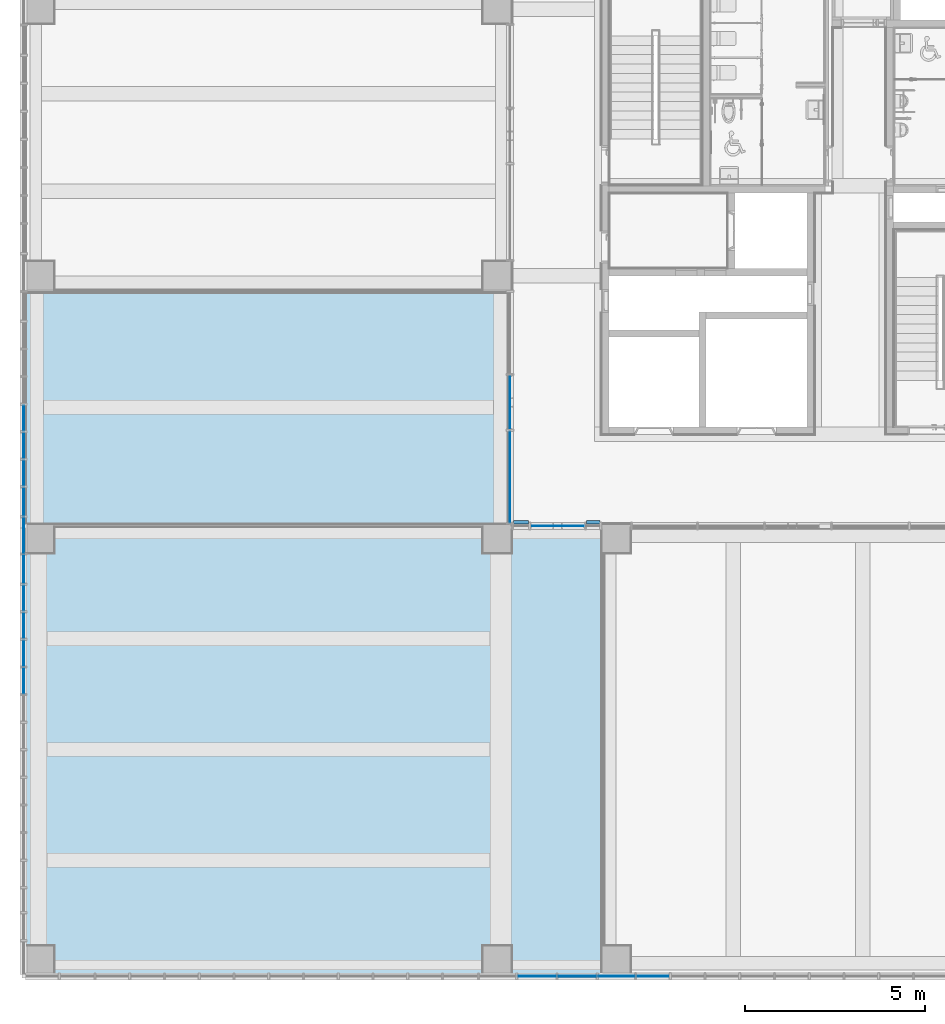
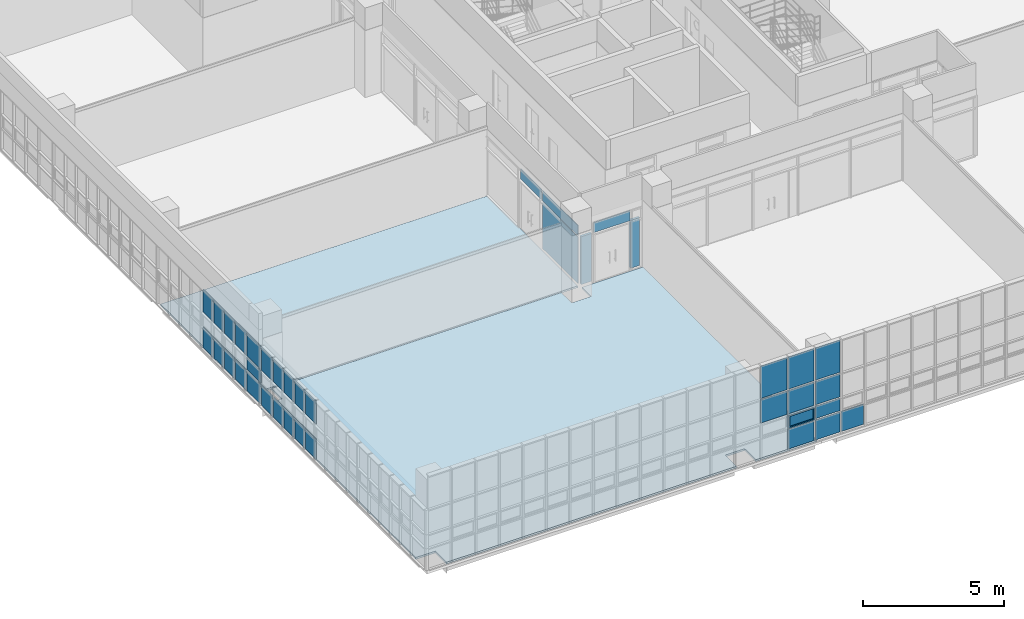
# One storey, part 30 of 76: 38 plates, 2 slabs, 4 elements without a shape of their own.
"""IFC2X3 building model written with IfcOpenShell, lengths in millimetres."""

from ifc_helpers import new_model, entity, si_unit, converted_unit, derived_unit, direction, frame, frame_2d, origin, origin_2d_with_axis, place, context, subcontext, project, spatial, polyline, rectangle, outline, extrude, source, transform, mapped, material, material_list, layer, layer_set, layer_usage, type_object, type_shapes, element, aggregate, save


model = new_model("IFC2X3")

# Units and contexts
model_context = context("Model", 3, precision=0.01, world=origin(), true_north=direction((6.123031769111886e-17, 1.0)))
body_context = subcontext(model_context, "Body", "Model", "MODEL_VIEW")
ifc_project = project(units=[si_unit("LENGTHUNIT", "METRE", prefix="MILLI"), si_unit("AREAUNIT", "SQUARE_METRE"), si_unit("VOLUMEUNIT", "CUBIC_METRE"), converted_unit("PLANEANGLEUNIT", "DEGREE", entity("IfcRatioMeasure", 0.017453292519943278), si_unit("PLANEANGLEUNIT", "RADIAN"), dimensions=[0, 0, 0, 0, 0, 0, 0]), si_unit("MASSUNIT", "GRAM", prefix="KILO"), derived_unit("MASSDENSITYUNIT", [(si_unit("MASSUNIT", "GRAM", prefix="KILO"), 1), (si_unit("LENGTHUNIT", "METRE"), -3)]), derived_unit("MOMENTOFINERTIAUNIT", [(si_unit("LENGTHUNIT", "METRE"), 4)]), si_unit("TIMEUNIT", "SECOND"), si_unit("FREQUENCYUNIT", "HERTZ"), si_unit("THERMODYNAMICTEMPERATUREUNIT", "DEGREE_CELSIUS"), derived_unit("THERMALTRANSMITTANCEUNIT", [(si_unit("MASSUNIT", "GRAM", prefix="KILO"), 1), (si_unit("THERMODYNAMICTEMPERATUREUNIT", "KELVIN"), -1), (si_unit("TIMEUNIT", "SECOND"), -3)]), derived_unit("VOLUMETRICFLOWRATEUNIT", [(si_unit("LENGTHUNIT", "METRE"), 3), (si_unit("TIMEUNIT", "SECOND"), -1)]), derived_unit("MASSFLOWRATEUNIT", [(si_unit("MASSUNIT", "GRAM", prefix="KILO"), 1), (si_unit("TIMEUNIT", "SECOND"), -1)]), derived_unit("ROTATIONALFREQUENCYUNIT", [(si_unit("TIMEUNIT", "SECOND"), -1)]), si_unit("ELECTRICCURRENTUNIT", "AMPERE"), si_unit("ELECTRICVOLTAGEUNIT", "VOLT"), si_unit("POWERUNIT", "WATT"), si_unit("FORCEUNIT", "NEWTON", prefix="KILO"), si_unit("ILLUMINANCEUNIT", "LUX"), si_unit("LUMINOUSFLUXUNIT", "LUMEN"), si_unit("LUMINOUSINTENSITYUNIT", "CANDELA"), derived_unit("USERDEFINED", [(si_unit("MASSUNIT", "GRAM", prefix="KILO"), -1), (si_unit("LENGTHUNIT", "METRE"), -2), (si_unit("TIMEUNIT", "SECOND"), 3), (si_unit("LUMINOUSFLUXUNIT", "LUMEN"), 1)]), derived_unit("SOUNDPOWERUNIT", [(si_unit("MASSUNIT", "GRAM", prefix="KILO"), 1), (si_unit("LENGTHUNIT", "METRE"), 2), (si_unit("TIMEUNIT", "SECOND"), -3)]), derived_unit("SOUNDPRESSUREUNIT", [(si_unit("MASSUNIT", "GRAM", prefix="KILO"), 1), (si_unit("LENGTHUNIT", "METRE"), -1), (si_unit("TIMEUNIT", "SECOND"), -2)]), derived_unit("LINEARVELOCITYUNIT", [(si_unit("LENGTHUNIT", "METRE"), 1), (si_unit("TIMEUNIT", "SECOND"), -1)]), si_unit("PRESSUREUNIT", "PASCAL"), derived_unit("USERDEFINED", [(si_unit("LENGTHUNIT", "METRE"), -2), (si_unit("MASSUNIT", "GRAM", prefix="KILO"), 1), (si_unit("TIMEUNIT", "SECOND"), -2)]), derived_unit("LINEARFORCEUNIT", [(si_unit("MASSUNIT", "GRAM", prefix="KILO"), 1), (si_unit("LENGTHUNIT", "METRE"), 1), (si_unit("TIMEUNIT", "SECOND"), -2), (si_unit("LENGTHUNIT", "METRE"), -1)]), derived_unit("PLANARFORCEUNIT", [(si_unit("MASSUNIT", "GRAM", prefix="KILO"), 1), (si_unit("LENGTHUNIT", "METRE"), 1), (si_unit("TIMEUNIT", "SECOND"), -2), (si_unit("LENGTHUNIT", "METRE"), -2)])], contexts=[model_context])

# Site, building, storey
site_placement = place(None, frame((-14167.972527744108, -657.2125860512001, 0.0)))
site = spatial("IfcSite", under=ifc_project, at=site_placement, Name="Default", CompositionType="ELEMENT")
building_placement = place(site_placement, origin())
building = spatial("IfcBuilding", under=site, at=building_placement, Name="Sample Building", CompositionType="ELEMENT")
storey_placement = place(building_placement, frame((0.0, 0.0, 9300.0)))
storey = spatial("IfcBuildingStorey", under=building, at=storey_placement, Name="지상 3층", CompositionType="ELEMENT", Elevation=9300.000000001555)

# Curtain wall, plate
curtain_wall_type = type_object("IfcCurtainWallType", Name="커튼월:CW112-스테인리스 스틸 커튼월", PredefinedType="NOTDEFINED")
curtain_wall_1_placement = place(storey_placement, frame((0.0, 0.0, -9300.0)))
curtain_wall_1 = element("IfcCurtainWall", 1, at=curtain_wall_1_placement, inside=storey, type_object=curtain_wall_type, Name="커튼월:CW112-스테인리스 스틸 커튼월", ObjectType="커튼월:CW112-스테인리스 스틸 커튼월")
ifc_material_1 = material(Name="KBIMS-로이유리(코팅)")
plate_type_1 = type_object("IfcPlateType", Name="CW300-THK24.Low-e coating glass:CW300-THK24.Low-e coating glass", PredefinedType="CURTAIN_PANEL", material=ifc_material_1)
shared_shape_1 = source(origin(), body_context, "Body", "SweptSolid", [
    extrude(rectangle(XDim=1500.0000000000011, YDim=24.000000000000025, at=origin_2d_with_axis()), frame((0.0, 0.0, 0.0), z_axis=(0.0, 0.0, 1.0), x_axis=(-1.0, 0.0, 0.0)), (0.0, 0.0, 1.0), 445.00000000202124),
])
type_shapes(plate_type_1, [shared_shape_1])
plate_1_placement = place(curtain_wall_1_placement, frame((27522.95510516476, 16442.17762439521, 11505.0), z_axis=(0.0, 0.0, 1.0), x_axis=(0.0, -1.0, 0.0)))
plate_1 = element("IfcPlate", 2, at=plate_1_placement, type_object=plate_type_1, material=ifc_material_1, Name="CW300-THK24.Low-e coating glass:CW300-THK24.Low-e coating glass", ObjectType="CW300-THK24.Low-e coating glass:CW300-THK24.Low-e coating glass", context=body_context, shape_type="MappedRepresentation", body=[
    mapped(shared_shape_1, transform((0.0, 0.0, 0.0), scale=1.0)),
])

# Curtain wall, plates
curtain_wall_2_placement = place(storey_placement, frame((0.0, 0.0, -9300.0)))
curtain_wall_2 = element("IfcCurtainWall", 3, at=curtain_wall_2_placement, inside=storey, type_object=curtain_wall_type, Name="커튼월:CW112-스테인리스 스틸 커튼월", ObjectType="커튼월:CW112-스테인리스 스틸 커튼월")
ifc_material_2 = material(Name="Glass")
plate_type_2 = type_object("IfcPlateType", Name="System Panel:Glazed", PredefinedType="CURTAIN_PANEL", material=ifc_material_2)
shared_shape_2 = source(origin(), body_context, "Body", "SweptSolid", [
    extrude(rectangle(XDim=100.0, YDim=376.8466492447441, at=origin_2d_with_axis()), frame((0.0, -100.0, 0.0), z_axis=(0.0, 0.0, 1.0), x_axis=(0.0, 1.0, 0.0)), (0.0, 0.0, 1.0), 2074.9999999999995),
])
type_shapes(plate_type_2, [shared_shape_2])
plate_2_placement = place(curtain_wall_2_placement, frame((29829.54913907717, 13012.212307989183, 9380.0), z_axis=(0.0, 0.0, 1.0), x_axis=(-1.0, 0.0, 0.0)))
plate_2 = element("IfcPlate", 4, at=plate_2_placement, type_object=plate_type_2, material=ifc_material_2, Name="System Panel:Glazed", ObjectType="System Panel:Glazed", context=body_context, shape_type="MappedRepresentation", body=[
    mapped(shared_shape_2, transform((0.0, 0.0, 0.0), scale=1.0)),
])
plate_type_3 = type_object("IfcPlateType", Name="System Panel:Glazed", PredefinedType="CURTAIN_PANEL", material=ifc_material_2)
shared_shape_3 = source(origin(), body_context, "Body", "SweptSolid", [
    extrude(rectangle(XDim=100.0, YDim=423.1454999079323, at=origin_2d_with_axis()), frame((0.0, -100.0, 0.0), z_axis=(0.0, 0.0, 1.0), x_axis=(0.0, 1.0, 0.0)), (0.0, 0.0, 1.0), 2074.9999999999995),
])
type_shapes(plate_type_3, [shared_shape_3])
plate_3_placement = place(curtain_wall_2_placement, frame((27829.553064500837, 13012.212307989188, 9380.0), z_axis=(0.0, 0.0, 1.0), x_axis=(-1.0, 0.0, 0.0)))
plate_3 = element("IfcPlate", 5, at=plate_3_placement, type_object=plate_type_3, material=ifc_material_2, Name="System Panel:Glazed", ObjectType="System Panel:Glazed", context=body_context, shape_type="MappedRepresentation", body=[
    mapped(shared_shape_3, transform((0.0, 0.0, 0.0), scale=1.0)),
])
plate_type_4 = type_object("IfcPlateType", Name="CW300-THK24.Low-e coating glass:CW300-THK24.Low-e coating glass", PredefinedType="CURTAIN_PANEL", material=ifc_material_1)
shared_shape_4 = source(origin(), body_context, "Body", "SweptSolid", [
    extrude(rectangle(XDim=24.000000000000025, YDim=1500.0000000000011, at=origin_2d_with_axis()), frame((0.0, 0.0, 0.0), z_axis=(0.0, 0.0, 1.0), x_axis=(0.0, 1.0, 0.0)), (0.0, 0.0, 1.0), 444.9999999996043),
])
type_shapes(plate_type_4, [shared_shape_4])
plate_4_placement = place(curtain_wall_2_placement, frame((28841.125814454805, 13012.212307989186, 11505.0), z_axis=(0.0, 0.0, 1.0), x_axis=(-1.0, 0.0, 0.0)))
plate_4 = element("IfcPlate", 6, at=plate_4_placement, type_object=plate_type_4, material=ifc_material_1, Name="CW300-THK24.Low-e coating glass:CW300-THK24.Low-e coating glass", ObjectType="CW300-THK24.Low-e coating glass:CW300-THK24.Low-e coating glass", context=body_context, shape_type="MappedRepresentation", body=[
    mapped(shared_shape_4, transform((0.0, 0.0, 0.0), scale=1.0)),
])
aggregate(curtain_wall_2, [plate_2, plate_3, plate_4])

curtain_wall_3_placement = place(storey_placement, frame((0.0, 0.0, -9300.0)))
curtain_wall_3 = element("IfcCurtainWall", 7, at=curtain_wall_3_placement, inside=storey, type_object=curtain_wall_type, Name="커튼월:CW112-스테인리스 스틸 커튼월", ObjectType="커튼월:CW112-스테인리스 스틸 커튼월")
plate_type_5 = type_object("IfcPlateType", Name="CW300-THK24.Low-e coating glass:CW300-THK24.Low-e coating glass", PredefinedType="CURTAIN_PANEL", material=ifc_material_1)
shared_shape_5 = source(origin(), body_context, "Body", "SweptSolid", [
    extrude(rectangle(XDim=776.0000000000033, YDim=24.000000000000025, at=origin_2d_with_axis()), frame((0.0, 0.0, 0.0), z_axis=(0.0, 0.0, 1.0), x_axis=(-1.0, 0.0, 0.0)), (0.0, 0.0, 1.0), 875.0000000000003),
])
type_shapes(plate_type_5, [shared_shape_5])
plate_5_placement = place(curtain_wall_3_placement, frame((14018.587904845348, 13684.817707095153, 9430.0), z_axis=(0.0, 0.0, 1.0), x_axis=(0.0, -1.0, 0.0)))
plate_5 = element("IfcPlate", 8, at=plate_5_placement, type_object=plate_type_5, material=ifc_material_1, Name="CW300-THK24.Low-e coating glass:CW300-THK24.Low-e coating glass", ObjectType="CW300-THK24.Low-e coating glass:CW300-THK24.Low-e coating glass", context=body_context, shape_type="MappedRepresentation", body=[
    mapped(shared_shape_5, transform((0.0, 0.0, 0.0), scale=1.0)),
])
plate_type_6 = type_object("IfcPlateType", Name="CW300-THK24.Low-e coating glass:CW300-THK24.Low-e coating glass", PredefinedType="CURTAIN_PANEL", material=ifc_material_1)
shared_shape_6 = source(origin(), body_context, "Body", "SweptSolid", [
    extrude(rectangle(XDim=715.9999999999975, YDim=24.000000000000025, at=origin_2d_with_axis()), frame((0.0, 0.0, 0.0), z_axis=(0.0, 0.0, 1.0), x_axis=(-1.0, 0.0, 0.0)), (0.0, 0.0, 1.0), 875.0000000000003),
])
type_shapes(plate_type_6, [shared_shape_6])
plate_6_placement = place(curtain_wall_3_placement, frame((14018.58790484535, 16012.817707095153, 9430.0), z_axis=(0.0, 0.0, 1.0), x_axis=(0.0, -1.0, 0.0)))
plate_6 = element("IfcPlate", 9, at=plate_6_placement, type_object=plate_type_6, material=ifc_material_1, Name="CW300-THK24.Low-e coating glass:CW300-THK24.Low-e coating glass", ObjectType="CW300-THK24.Low-e coating glass:CW300-THK24.Low-e coating glass", context=body_context, shape_type="MappedRepresentation", body=[
    mapped(shared_shape_6, transform((0.0, 0.0, 0.0), scale=1.0)),
])
plate_7_placement = place(curtain_wall_3_placement, frame((14018.58790484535, 15246.81770709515, 9430.0), z_axis=(0.0, 0.0, 1.0), x_axis=(0.0, -1.0, 0.0)))
plate_7 = element("IfcPlate", 10, at=plate_7_placement, type_object=plate_type_6, material=ifc_material_1, Name="CW300-THK24.Low-e coating glass:CW300-THK24.Low-e coating glass", ObjectType="CW300-THK24.Low-e coating glass:CW300-THK24.Low-e coating glass", context=body_context, shape_type="MappedRepresentation", body=[
    mapped(shared_shape_6, transform((0.0, 0.0, 0.0), scale=1.0)),
])
plate_8_placement = place(curtain_wall_3_placement, frame((14018.587904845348, 14480.817707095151, 9430.0), z_axis=(0.0, 0.0, 1.0), x_axis=(0.0, -1.0, 0.0)))
plate_8 = element("IfcPlate", 11, at=plate_8_placement, type_object=plate_type_6, material=ifc_material_1, Name="CW300-THK24.Low-e coating glass:CW300-THK24.Low-e coating glass", ObjectType="CW300-THK24.Low-e coating glass:CW300-THK24.Low-e coating glass", context=body_context, shape_type="MappedRepresentation", body=[
    mapped(shared_shape_6, transform((0.0, 0.0, 0.0), scale=1.0)),
])
plate_9_placement = place(curtain_wall_3_placement, frame((14018.587904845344, 11012.81770709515, 9430.0), z_axis=(0.0, 0.0, 1.0), x_axis=(0.0, -1.0, 0.0)))
plate_9 = element("IfcPlate", 12, at=plate_9_placement, type_object=plate_type_6, material=ifc_material_1, Name="CW300-THK24.Low-e coating glass:CW300-THK24.Low-e coating glass", ObjectType="CW300-THK24.Low-e coating glass:CW300-THK24.Low-e coating glass", context=body_context, shape_type="MappedRepresentation", body=[
    mapped(shared_shape_6, transform((0.0, 0.0, 0.0), scale=1.0)),
])
plate_10_placement = place(curtain_wall_3_placement, frame((14018.587904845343, 10246.817707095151, 9430.0), z_axis=(0.0, 0.0, 1.0), x_axis=(0.0, -1.0, 0.0)))
plate_10 = element("IfcPlate", 13, at=plate_10_placement, type_object=plate_type_6, material=ifc_material_1, Name="CW300-THK24.Low-e coating glass:CW300-THK24.Low-e coating glass", ObjectType="CW300-THK24.Low-e coating glass:CW300-THK24.Low-e coating glass", context=body_context, shape_type="MappedRepresentation", body=[
    mapped(shared_shape_6, transform((0.0, 0.0, 0.0), scale=1.0)),
])
plate_11_placement = place(curtain_wall_3_placement, frame((14018.587904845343, 9480.817707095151, 9430.0), z_axis=(0.0, 0.0, 1.0), x_axis=(0.0, -1.0, 0.0)))
plate_11 = element("IfcPlate", 14, at=plate_11_placement, type_object=plate_type_6, material=ifc_material_1, Name="CW300-THK24.Low-e coating glass:CW300-THK24.Low-e coating glass", ObjectType="CW300-THK24.Low-e coating glass:CW300-THK24.Low-e coating glass", context=body_context, shape_type="MappedRepresentation", body=[
    mapped(shared_shape_6, transform((0.0, 0.0, 0.0), scale=1.0)),
])
plate_12_placement = place(curtain_wall_3_placement, frame((14018.587904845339, 8714.817707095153, 9430.0), z_axis=(0.0, 0.0, 1.0), x_axis=(0.0, -1.0, 0.0)))
plate_12 = element("IfcPlate", 15, at=plate_12_placement, type_object=plate_type_6, material=ifc_material_1, Name="CW300-THK24.Low-e coating glass:CW300-THK24.Low-e coating glass", ObjectType="CW300-THK24.Low-e coating glass:CW300-THK24.Low-e coating glass", context=body_context, shape_type="MappedRepresentation", body=[
    mapped(shared_shape_6, transform((0.0, 0.0, 0.0), scale=1.0)),
])
plate_type_7 = type_object("IfcPlateType", Name="CW300-THK24.Low-e coating glass:CW300-THK24.Low-e coating glass", PredefinedType="CURTAIN_PANEL", material=ifc_material_1)
shared_shape_7 = source(origin(), body_context, "Body", "SweptSolid", [
    extrude(rectangle(XDim=989.999999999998, YDim=24.000000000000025, at=origin_2d_with_axis()), frame((0.0, 0.0, 0.0), z_axis=(0.0, 0.0, 1.0), x_axis=(-1.0, 0.0, 0.0)), (0.0, 0.0, 1.0), 875.0000000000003),
])
type_shapes(plate_type_7, [shared_shape_7])
plate_13_placement = place(curtain_wall_3_placement, frame((14018.587904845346, 12751.817707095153, 9430.0), z_axis=(0.0, 0.0, 1.0), x_axis=(0.0, -1.0, 0.0)))
plate_13 = element("IfcPlate", 16, at=plate_13_placement, type_object=plate_type_7, material=ifc_material_1, Name="CW300-THK24.Low-e coating glass:CW300-THK24.Low-e coating glass", ObjectType="CW300-THK24.Low-e coating glass:CW300-THK24.Low-e coating glass", context=body_context, shape_type="MappedRepresentation", body=[
    mapped(shared_shape_7, transform((0.0, 0.0, 0.0), scale=1.0)),
])
plate_type_8 = type_object("IfcPlateType", Name="CW300-THK24.Low-e coating glass:CW300-THK24.Low-e coating glass", PredefinedType="CURTAIN_PANEL", material=ifc_material_1)
shared_shape_8 = source(origin(), body_context, "Body", "SweptSolid", [
    extrude(rectangle(XDim=786.000000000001, YDim=24.000000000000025, at=origin_2d_with_axis()), frame((0.0, 0.0, 0.0), z_axis=(0.0, 0.0, 1.0), x_axis=(-1.0, 0.0, 0.0)), (0.0, 0.0, 1.0), 875.0000000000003),
])
type_shapes(plate_type_8, [shared_shape_8])
plate_14_placement = place(curtain_wall_3_placement, frame((14018.587904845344, 11813.817707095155, 9430.0), z_axis=(0.0, 0.0, 1.0), x_axis=(0.0, -1.0, 0.0)))
plate_14 = element("IfcPlate", 17, at=plate_14_placement, type_object=plate_type_8, material=ifc_material_1, Name="CW300-THK24.Low-e coating glass:CW300-THK24.Low-e coating glass", ObjectType="CW300-THK24.Low-e coating glass:CW300-THK24.Low-e coating glass", context=body_context, shape_type="MappedRepresentation", body=[
    mapped(shared_shape_8, transform((0.0, 0.0, 0.0), scale=1.0)),
])
plate_type_9 = type_object("IfcPlateType", Name="CW300-THK24.Low-e coating glass:CW300-THK24.Low-e coating glass", PredefinedType="CURTAIN_PANEL", material=ifc_material_1)
shared_shape_9 = source(origin(), body_context, "Body", "SweptSolid", [
    extrude(rectangle(XDim=989.9999999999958, YDim=24.000000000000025, at=origin_2d_with_axis()), frame((0.0, 0.0, 0.0), z_axis=(0.0, 0.0, 1.0), x_axis=(-1.0, 0.0, 0.0)), (0.0, 0.0, 1.0), 549.9999999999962),
])
type_shapes(plate_type_9, [shared_shape_9])
plate_15_placement = place(curtain_wall_3_placement, frame((14018.587904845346, 12751.817707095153, 10355.0), z_axis=(0.0, 0.0, 1.0), x_axis=(0.0, -1.0, 0.0)))
plate_15 = element("IfcPlate", 18, at=plate_15_placement, type_object=plate_type_9, material=ifc_material_1, Name="CW300-THK24.Low-e coating glass:CW300-THK24.Low-e coating glass", ObjectType="CW300-THK24.Low-e coating glass:CW300-THK24.Low-e coating glass", context=body_context, shape_type="MappedRepresentation", body=[
    mapped(shared_shape_9, transform((0.0, 0.0, 0.0), scale=1.0)),
])
plate_type_10 = type_object("IfcPlateType", Name="CW300-THK24.Low-e coating glass:CW300-THK24.Low-e coating glass", PredefinedType="CURTAIN_PANEL", material=ifc_material_1)
shared_shape_10 = source(origin(), body_context, "Body", "SweptSolid", [
    extrude(rectangle(XDim=776.0000000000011, YDim=24.000000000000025, at=origin_2d_with_axis()), frame((0.0, 0.0, 0.0), z_axis=(0.0, 0.0, 1.0), x_axis=(-1.0, 0.0, 0.0)), (0.0, 0.0, 1.0), 995.0000000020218),
])
type_shapes(plate_type_10, [shared_shape_10])
plate_16_placement = place(curtain_wall_3_placement, frame((14018.587904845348, 13684.817707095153, 10955.0), z_axis=(0.0, 0.0, 1.0), x_axis=(0.0, -1.0, 0.0)))
plate_16 = element("IfcPlate", 19, at=plate_16_placement, type_object=plate_type_10, material=ifc_material_1, Name="CW300-THK24.Low-e coating glass:CW300-THK24.Low-e coating glass", ObjectType="CW300-THK24.Low-e coating glass:CW300-THK24.Low-e coating glass", context=body_context, shape_type="MappedRepresentation", body=[
    mapped(shared_shape_10, transform((0.0, 0.0, 0.0), scale=1.0)),
])
plate_type_11 = type_object("IfcPlateType", Name="CW300-THK24.Low-e coating glass:CW300-THK24.Low-e coating glass", PredefinedType="CURTAIN_PANEL", material=ifc_material_1)
shared_shape_11 = source(origin(), body_context, "Body", "SweptSolid", [
    extrude(rectangle(XDim=715.9999999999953, YDim=24.000000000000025, at=origin_2d_with_axis()), frame((0.0, 0.0, 0.0), z_axis=(0.0, 0.0, 1.0), x_axis=(-1.0, 0.0, 0.0)), (0.0, 0.0, 1.0), 995.0000000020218),
])
type_shapes(plate_type_11, [shared_shape_11])
plate_17_placement = place(curtain_wall_3_placement, frame((14018.58790484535, 16012.817707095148, 10955.0), z_axis=(0.0, 0.0, 1.0), x_axis=(0.0, -1.0, 0.0)))
plate_17 = element("IfcPlate", 20, at=plate_17_placement, type_object=plate_type_11, material=ifc_material_1, Name="CW300-THK24.Low-e coating glass:CW300-THK24.Low-e coating glass", ObjectType="CW300-THK24.Low-e coating glass:CW300-THK24.Low-e coating glass", context=body_context, shape_type="MappedRepresentation", body=[
    mapped(shared_shape_11, transform((0.0, 0.0, 0.0), scale=1.0)),
])
plate_18_placement = place(curtain_wall_3_placement, frame((14018.58790484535, 15246.81770709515, 10955.0), z_axis=(0.0, 0.0, 1.0), x_axis=(0.0, -1.0, 0.0)))
plate_18 = element("IfcPlate", 21, at=plate_18_placement, type_object=plate_type_11, material=ifc_material_1, Name="CW300-THK24.Low-e coating glass:CW300-THK24.Low-e coating glass", ObjectType="CW300-THK24.Low-e coating glass:CW300-THK24.Low-e coating glass", context=body_context, shape_type="MappedRepresentation", body=[
    mapped(shared_shape_11, transform((0.0, 0.0, 0.0), scale=1.0)),
])
plate_19_placement = place(curtain_wall_3_placement, frame((14018.587904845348, 14480.817707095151, 10955.0), z_axis=(0.0, 0.0, 1.0), x_axis=(0.0, -1.0, 0.0)))
plate_19 = element("IfcPlate", 22, at=plate_19_placement, type_object=plate_type_11, material=ifc_material_1, Name="CW300-THK24.Low-e coating glass:CW300-THK24.Low-e coating glass", ObjectType="CW300-THK24.Low-e coating glass:CW300-THK24.Low-e coating glass", context=body_context, shape_type="MappedRepresentation", body=[
    mapped(shared_shape_11, transform((0.0, 0.0, 0.0), scale=1.0)),
])
plate_20_placement = place(curtain_wall_3_placement, frame((14018.587904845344, 11012.81770709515, 10955.0), z_axis=(0.0, 0.0, 1.0), x_axis=(0.0, -1.0, 0.0)))
plate_20 = element("IfcPlate", 23, at=plate_20_placement, type_object=plate_type_11, material=ifc_material_1, Name="CW300-THK24.Low-e coating glass:CW300-THK24.Low-e coating glass", ObjectType="CW300-THK24.Low-e coating glass:CW300-THK24.Low-e coating glass", context=body_context, shape_type="MappedRepresentation", body=[
    mapped(shared_shape_11, transform((0.0, 0.0, 0.0), scale=1.0)),
])
plate_21_placement = place(curtain_wall_3_placement, frame((14018.587904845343, 10246.817707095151, 10955.0), z_axis=(0.0, 0.0, 1.0), x_axis=(0.0, -1.0, 0.0)))
plate_21 = element("IfcPlate", 24, at=plate_21_placement, type_object=plate_type_11, material=ifc_material_1, Name="CW300-THK24.Low-e coating glass:CW300-THK24.Low-e coating glass", ObjectType="CW300-THK24.Low-e coating glass:CW300-THK24.Low-e coating glass", context=body_context, shape_type="MappedRepresentation", body=[
    mapped(shared_shape_11, transform((0.0, 0.0, 0.0), scale=1.0)),
])
plate_22_placement = place(curtain_wall_3_placement, frame((14018.587904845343, 9480.817707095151, 10955.0), z_axis=(0.0, 0.0, 1.0), x_axis=(0.0, -1.0, 0.0)))
plate_22 = element("IfcPlate", 25, at=plate_22_placement, type_object=plate_type_11, material=ifc_material_1, Name="CW300-THK24.Low-e coating glass:CW300-THK24.Low-e coating glass", ObjectType="CW300-THK24.Low-e coating glass:CW300-THK24.Low-e coating glass", context=body_context, shape_type="MappedRepresentation", body=[
    mapped(shared_shape_11, transform((0.0, 0.0, 0.0), scale=1.0)),
])
plate_23_placement = place(curtain_wall_3_placement, frame((14018.587904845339, 8714.817707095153, 10955.0), z_axis=(0.0, 0.0, 1.0), x_axis=(0.0, -1.0, 0.0)))
plate_23 = element("IfcPlate", 26, at=plate_23_placement, type_object=plate_type_11, material=ifc_material_1, Name="CW300-THK24.Low-e coating glass:CW300-THK24.Low-e coating glass", ObjectType="CW300-THK24.Low-e coating glass:CW300-THK24.Low-e coating glass", context=body_context, shape_type="MappedRepresentation", body=[
    mapped(shared_shape_11, transform((0.0, 0.0, 0.0), scale=1.0)),
])
plate_type_12 = type_object("IfcPlateType", Name="CW300-THK24.Low-e coating glass:CW300-THK24.Low-e coating glass", PredefinedType="CURTAIN_PANEL", material=ifc_material_1)
shared_shape_12 = source(origin(), body_context, "Body", "SweptSolid", [
    extrude(rectangle(XDim=989.9999999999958, YDim=24.000000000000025, at=origin_2d_with_axis()), frame((0.0, 0.0, 0.0), z_axis=(0.0, 0.0, 1.0), x_axis=(-1.0, 0.0, 0.0)), (0.0, 0.0, 1.0), 995.0000000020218),
])
type_shapes(plate_type_12, [shared_shape_12])
plate_24_placement = place(curtain_wall_3_placement, frame((14018.587904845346, 12751.817707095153, 10955.0), z_axis=(0.0, 0.0, 1.0), x_axis=(0.0, -1.0, 0.0)))
plate_24 = element("IfcPlate", 27, at=plate_24_placement, type_object=plate_type_12, material=ifc_material_1, Name="CW300-THK24.Low-e coating glass:CW300-THK24.Low-e coating glass", ObjectType="CW300-THK24.Low-e coating glass:CW300-THK24.Low-e coating glass", context=body_context, shape_type="MappedRepresentation", body=[
    mapped(shared_shape_12, transform((0.0, 0.0, 0.0), scale=1.0)),
])
plate_type_13 = type_object("IfcPlateType", Name="CW300-THK24.Low-e coating glass:CW300-THK24.Low-e coating glass", PredefinedType="CURTAIN_PANEL", material=ifc_material_1)
shared_shape_13 = source(origin(), body_context, "Body", "SweptSolid", [
    extrude(rectangle(XDim=786.000000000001, YDim=24.000000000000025, at=origin_2d_with_axis()), frame((0.0, 0.0, 0.0), z_axis=(0.0, 0.0, 1.0), x_axis=(-1.0, 0.0, 0.0)), (0.0, 0.0, 1.0), 995.0000000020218),
])
type_shapes(plate_type_13, [shared_shape_13])
plate_25_placement = place(curtain_wall_3_placement, frame((14018.587904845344, 11813.817707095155, 10955.0), z_axis=(0.0, 0.0, 1.0), x_axis=(0.0, -1.0, 0.0)))
plate_25 = element("IfcPlate", 28, at=plate_25_placement, type_object=plate_type_13, material=ifc_material_1, Name="CW300-THK24.Low-e coating glass:CW300-THK24.Low-e coating glass", ObjectType="CW300-THK24.Low-e coating glass:CW300-THK24.Low-e coating glass", context=body_context, shape_type="MappedRepresentation", body=[
    mapped(shared_shape_13, transform((0.0, 0.0, 0.0), scale=1.0)),
])
aggregate(curtain_wall_3, [plate_6, plate_7, plate_8, plate_5, plate_13, plate_14, plate_9, plate_10, plate_11, plate_12, plate_15, plate_17, plate_18, plate_19, plate_16, plate_24, plate_25, plate_20, plate_21, plate_22, plate_23])

curtain_wall_4_placement = place(storey_placement, frame((0.0, 0.0, -9300.0)))
curtain_wall_4 = element("IfcCurtainWall", 29, at=curtain_wall_4_placement, inside=storey, type_object=curtain_wall_type, Name="커튼월:CW112-스테인리스 스틸 커튼월", ObjectType="커튼월:CW112-스테인리스 스틸 커튼월")
plate_type_14 = type_object("IfcPlateType", Name="CW300-THK24.Low-e coating glass:CW300-THK24.Low-e coating glass", PredefinedType="CURTAIN_PANEL", material=ifc_material_1)
shared_shape_14 = source(origin(), body_context, "Body", "SweptSolid", [
    extrude(rectangle(XDim=914.9999999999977, YDim=24.000000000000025, at=origin_2d_with_axis()), frame((0.0, 0.0, 0.0), z_axis=(0.0, 0.0, 1.0), x_axis=(-1.0, 0.0, 0.0)), (0.0, 0.0, 1.0), 875.0000000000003),
])
type_shapes(plate_type_14, [shared_shape_14])
plate_26_placement = place(curtain_wall_4_placement, frame((31487.656070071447, 507.21229514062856, 9430.0)))
plate_26 = element("IfcPlate", 30, at=plate_26_placement, type_object=plate_type_14, material=ifc_material_1, Name="CW300-THK24.Low-e coating glass:CW300-THK24.Low-e coating glass", ObjectType="CW300-THK24.Low-e coating glass:CW300-THK24.Low-e coating glass", context=body_context, shape_type="MappedRepresentation", body=[
    mapped(shared_shape_14, transform((0.0, 0.0, 0.0), scale=1.0)),
])
plate_type_15 = type_object("IfcPlateType", Name="CW300-THK24.Low-e coating glass:CW300-THK24.Low-e coating glass", PredefinedType="CURTAIN_PANEL", material=ifc_material_1)
shared_shape_15 = source(origin(), body_context, "Body", "SweptSolid", [
    extrude(rectangle(XDim=1009.9999999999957, YDim=24.000000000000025, at=origin_2d_with_axis()), frame((0.0, 0.0, 0.0), z_axis=(0.0, 0.0, 1.0), x_axis=(-1.0, 0.0, 0.0)), (0.0, 0.0, 1.0), 875.0000000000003),
])
type_shapes(plate_type_15, [shared_shape_15])
plate_27_placement = place(curtain_wall_4_placement, frame((30475.156070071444, 507.2122951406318, 9430.0)))
plate_27 = element("IfcPlate", 31, at=plate_27_placement, type_object=plate_type_15, material=ifc_material_1, Name="CW300-THK24.Low-e coating glass:CW300-THK24.Low-e coating glass", ObjectType="CW300-THK24.Low-e coating glass:CW300-THK24.Low-e coating glass", context=body_context, shape_type="MappedRepresentation", body=[
    mapped(shared_shape_15, transform((0.0, 0.0, 0.0), scale=1.0)),
])
plate_type_16 = type_object("IfcPlateType", Name="CW300-THK24.Low-e coating glass:CW300-THK24.Low-e coating glass", PredefinedType="CURTAIN_PANEL", material=ifc_material_1)
shared_shape_16 = source(origin(), body_context, "Body", "SweptSolid", [
    extrude(rectangle(XDim=1070.000000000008, YDim=24.000000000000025, at=origin_2d_with_axis()), frame((0.0, 0.0, 0.0), z_axis=(0.0, 0.0, 1.0), x_axis=(-1.0, 0.0, 0.0)), (0.0, 0.0, 1.0), 875.0000000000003),
])
type_shapes(plate_type_16, [shared_shape_16])
plate_28_placement = place(curtain_wall_4_placement, frame((29385.156070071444, 507.2122951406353, 9430.0)))
plate_28 = element("IfcPlate", 32, at=plate_28_placement, type_object=plate_type_16, material=ifc_material_1, Name="CW300-THK24.Low-e coating glass:CW300-THK24.Low-e coating glass", ObjectType="CW300-THK24.Low-e coating glass:CW300-THK24.Low-e coating glass", context=body_context, shape_type="MappedRepresentation", body=[
    mapped(shared_shape_16, transform((0.0, 0.0, 0.0), scale=1.0)),
])
plate_type_17 = type_object("IfcPlateType", Name="CW300-THK24.Low-e coating glass:CW300-THK24.Low-e coating glass", PredefinedType="CURTAIN_PANEL", material=ifc_material_1)
shared_shape_17 = source(origin(), body_context, "Body", "SweptSolid", [
    extrude(rectangle(XDim=1010.0, YDim=24.000000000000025, at=origin_2d_with_axis()), frame((0.0, 0.0, 0.0), z_axis=(0.0, 0.0, 1.0), x_axis=(-1.0, 0.0, 0.0)), (0.0, 0.0, 1.0), 549.9999999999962),
])
type_shapes(plate_type_17, [shared_shape_17])
plate_29_placement = place(curtain_wall_4_placement, frame((30475.156070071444, 507.2122951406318, 10355.0)))
plate_29 = element("IfcPlate", 33, at=plate_29_placement, type_object=plate_type_17, material=ifc_material_1, Name="CW300-THK24.Low-e coating glass:CW300-THK24.Low-e coating glass", ObjectType="CW300-THK24.Low-e coating glass:CW300-THK24.Low-e coating glass", context=body_context, shape_type="MappedRepresentation", body=[
    mapped(shared_shape_17, transform((0.0, 0.0, 0.0), scale=1.0)),
])
ifc_material_3 = material(Name="KBIMS-유리")
ifc_material_4 = material(Name="KBIMS-알루미늄")
ifc_material_list_1 = material_list([ifc_material_3, ifc_material_4])
ifc_material_list_2 = material_list([ifc_material_3, ifc_material_4])
plate_type_18 = type_object("IfcPlateType", Name="CW410-프로젝트 창:CW410-프로젝트 창 (하부개폐)", PredefinedType="CURTAIN_PANEL", material=ifc_material_list_2)
shared_shape_18 = source(origin(), body_context, "Body", "SweptSolid", [
    extrude(rectangle(XDim=970.0000000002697, YDim=23.999999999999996, at=origin_2d_with_axis()), frame((0.0, -0.04999999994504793, 50.0), z_axis=(0.0, 0.0, 1.0), x_axis=(-1.0, 0.0, 0.0)), (0.0, 0.0, 1.0), 450.0000000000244),
    extrude(outline(polyline([(-535.0, -275.0), (535.0, -275.0), (535.0, 275.0), (-535.0, 275.0), (-535.0, -275.0)]), holes=[polyline([(-485.0, -225.0), (-485.0, 225.0), (485.0, 225.0), (485.0, -225.0), (-485.0, -225.0)])]), frame((0.0, -50.04999999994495, 275.0), z_axis=(0.0, 1.0, 0.0), x_axis=(1.0, 0.0, 0.0)), (0.0, 0.0, 1.0), 99.99999999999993),
])
type_shapes(plate_type_18, [shared_shape_18])
plate_30_placement = place(curtain_wall_4_placement, frame((29385.156070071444, 507.2122951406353, 10355.0)))
plate_30 = element("IfcPlate", 34, at=plate_30_placement, type_object=plate_type_18, material=ifc_material_list_1, Name="CW410-프로젝트 창:CW410-프로젝트 창 (하부개폐)", ObjectType="CW410-프로젝트 창:CW410-프로젝트 창 (하부개폐)", context=body_context, shape_type="MappedRepresentation", body=[
    mapped(shared_shape_18, transform((0.0, 0.0, 0.0), scale=1.0)),
])
plate_type_19 = type_object("IfcPlateType", Name="CW300-THK24.Low-e coating glass:CW300-THK24.Low-e coating glass", PredefinedType="CURTAIN_PANEL", material=ifc_material_1)
shared_shape_19 = source(origin(), body_context, "Body", "SweptSolid", [
    extrude(rectangle(XDim=1010.0, YDim=24.000000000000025, at=origin_2d_with_axis()), frame((0.0, 0.0, 0.0), z_axis=(0.0, 0.0, 1.0), x_axis=(-1.0, 0.0, 0.0)), (0.0, 0.0, 1.0), 1020.0000000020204),
])
type_shapes(plate_type_19, [shared_shape_19])
plate_31_placement = place(curtain_wall_4_placement, frame((30475.156070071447, 507.2122951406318, 10955.0)))
plate_31 = element("IfcPlate", 35, at=plate_31_placement, type_object=plate_type_19, material=ifc_material_1, Name="CW300-THK24.Low-e coating glass:CW300-THK24.Low-e coating glass", ObjectType="CW300-THK24.Low-e coating glass:CW300-THK24.Low-e coating glass", context=body_context, shape_type="MappedRepresentation", body=[
    mapped(shared_shape_19, transform((0.0, 0.0, 0.0), scale=1.0)),
])
plate_type_20 = type_object("IfcPlateType", Name="CW300-THK24.Low-e coating glass:CW300-THK24.Low-e coating glass", PredefinedType="CURTAIN_PANEL", material=ifc_material_1)
shared_shape_20 = source(origin(), body_context, "Body", "SweptSolid", [
    extrude(rectangle(XDim=1070.000000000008, YDim=24.000000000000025, at=origin_2d_with_axis()), frame((0.0, 0.0, 0.0), z_axis=(0.0, 0.0, 1.0), x_axis=(-1.0, 0.0, 0.0)), (0.0, 0.0, 1.0), 1020.0000000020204),
])
type_shapes(plate_type_20, [shared_shape_20])
plate_32_placement = place(curtain_wall_4_placement, frame((28265.156070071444, 507.2122951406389, 10955.0)))
plate_32 = element("IfcPlate", 36, at=plate_32_placement, type_object=plate_type_20, material=ifc_material_1, Name="CW300-THK24.Low-e coating glass:CW300-THK24.Low-e coating glass", ObjectType="CW300-THK24.Low-e coating glass:CW300-THK24.Low-e coating glass", context=body_context, shape_type="MappedRepresentation", body=[
    mapped(shared_shape_20, transform((0.0, 0.0, 0.0), scale=1.0)),
])
plate_33_placement = place(curtain_wall_4_placement, frame((29385.156070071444, 507.2122951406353, 10955.0)))
plate_33 = element("IfcPlate", 37, at=plate_33_placement, type_object=plate_type_20, material=ifc_material_1, Name="CW300-THK24.Low-e coating glass:CW300-THK24.Low-e coating glass", ObjectType="CW300-THK24.Low-e coating glass:CW300-THK24.Low-e coating glass", context=body_context, shape_type="MappedRepresentation", body=[
    mapped(shared_shape_20, transform((0.0, 0.0, 0.0), scale=1.0)),
])
plate_type_21 = type_object("IfcPlateType", Name="CW300-THK24.Low-e coating glass:CW300-THK24.Low-e coating glass", PredefinedType="CURTAIN_PANEL", material=ifc_material_1)
shared_shape_21 = source(origin(), body_context, "Body", "SweptSolid", [
    extrude(rectangle(XDim=1010.0, YDim=24.000000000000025, at=origin_2d_with_axis()), frame((0.0, 0.0, 0.0), z_axis=(0.0, 0.0, 1.0), x_axis=(-1.0, 0.0, 0.0)), (0.0, 0.0, 1.0), 1404.9999999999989),
])
type_shapes(plate_type_21, [shared_shape_21])
plate_34_placement = place(curtain_wall_4_placement, frame((30475.156070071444, 507.2122951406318, 12025.0)))
plate_34 = element("IfcPlate", 38, at=plate_34_placement, type_object=plate_type_21, material=ifc_material_1, Name="CW300-THK24.Low-e coating glass:CW300-THK24.Low-e coating glass", ObjectType="CW300-THK24.Low-e coating glass:CW300-THK24.Low-e coating glass", context=body_context, shape_type="MappedRepresentation", body=[
    mapped(shared_shape_21, transform((0.0, 0.0, 0.0), scale=1.0)),
])
plate_type_22 = type_object("IfcPlateType", Name="CW300-THK24.Low-e coating glass:CW300-THK24.Low-e coating glass", PredefinedType="CURTAIN_PANEL", material=ifc_material_1)
shared_shape_22 = source(origin(), body_context, "Body", "SweptSolid", [
    extrude(rectangle(XDim=1070.0000000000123, YDim=24.000000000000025, at=origin_2d_with_axis()), frame((0.0, 0.0, 0.0), z_axis=(0.0, 0.0, 1.0), x_axis=(-1.0, 0.0, 0.0)), (0.0, 0.0, 1.0), 1404.9999999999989),
])
type_shapes(plate_type_22, [shared_shape_22])
plate_35_placement = place(curtain_wall_4_placement, frame((28265.15607007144, 507.2122951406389, 12025.0)))
plate_35 = element("IfcPlate", 39, at=plate_35_placement, type_object=plate_type_22, material=ifc_material_1, Name="CW300-THK24.Low-e coating glass:CW300-THK24.Low-e coating glass", ObjectType="CW300-THK24.Low-e coating glass:CW300-THK24.Low-e coating glass", context=body_context, shape_type="MappedRepresentation", body=[
    mapped(shared_shape_22, transform((0.0, 0.0, 0.0), scale=1.0)),
])
plate_36_placement = place(curtain_wall_4_placement, frame((29385.156070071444, 507.2122951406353, 12025.0)))
plate_36 = element("IfcPlate", 40, at=plate_36_placement, type_object=plate_type_22, material=ifc_material_1, Name="CW300-THK24.Low-e coating glass:CW300-THK24.Low-e coating glass", ObjectType="CW300-THK24.Low-e coating glass:CW300-THK24.Low-e coating glass", context=body_context, shape_type="MappedRepresentation", body=[
    mapped(shared_shape_22, transform((0.0, 0.0, 0.0), scale=1.0)),
])
aggregate(curtain_wall_4, [plate_28, plate_27, plate_26, plate_30, plate_29, plate_32, plate_33, plate_31, plate_35, plate_36, plate_34])

# Slab
ifc_material_5 = material(Name="SL341-테라조 바닥 (바탕48mm, 마감32mm)")
ifc_layer = layer(ifc_material_5, 80.0)
ifc_layer_set = layer_set([ifc_layer], Name="바닥:A1-14-06B-테라조타일 (80mm)")
ifc_layer_usage_1 = layer_usage(ifc_layer_set, "AXIS3", "POSITIVE", 0.0)
slab_type_1 = type_object("IfcSlabType", Name="바닥:A1-14-06B-테라조타일 (80mm)", PredefinedType="FLOOR", material=ifc_layer_set)
slab_1_placement = place(storey_placement, origin())
element("IfcSlab", 41, at=slab_1_placement, inside=storey, type_object=slab_type_1, material=ifc_layer_usage_1, Name="바닥:A1-14-06B-테라조타일 (80mm)", ObjectType="바닥:A1-14-06B-테라조타일 (80mm)", PredefinedType="FLOOR", context=body_context, shape_type="SweptSolid", body=[
    extrude(outline(polyline([(-5424.058452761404, -8749.995682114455), (5475.941969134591, -8749.995682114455), (5475.941969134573, -7949.99568211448), (6213.407285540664, -7949.995682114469), (6213.407285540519, 3950.0043544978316), (5475.941969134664, 3950.0043544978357), (5475.941969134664, 4750.004354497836), (6130.94196913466, 4750.0043544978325), (6130.941969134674, 7249.986977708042), (-6224.0581437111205, 7249.9869777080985), (-6224.0581437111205, 4749.987005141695), (-5424.058452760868, 4749.987005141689), (-5424.058452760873, 3950.0043544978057), (-6224.0581437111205, 3950.0043544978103), (-6224.058143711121, -7949.995682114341), (-5424.058452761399, -7949.995682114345), (-5424.058452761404, -8749.995682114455)])), frame((22817.96813663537, 6781.270338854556, 80.0), z_axis=(0.0, 0.0, -1.0), x_axis=(0.0, 1.0, 0.0)), (0.0, 0.0, 1.0), 80.00000000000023),
])

# Plate
plate_type_23 = type_object("IfcPlateType", Name="CW300-THK24.Low-e coating glass:CW300-THK24.Low-e coating glass", PredefinedType="CURTAIN_PANEL", material=ifc_material_1)
shared_shape_23 = source(origin(), body_context, "Body", "SweptSolid", [
    extrude(rectangle(XDim=2535.0000000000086, YDim=24.000000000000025, at=origin_2d_with_axis()), frame((0.0, 0.0, 0.0), z_axis=(0.0, 0.0, 1.0), x_axis=(-1.0, 0.0, 0.0)), (0.0, 0.0, 1.0), 2025.000000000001),
])
type_shapes(plate_type_23, [shared_shape_23])
plate_37_placement = place(curtain_wall_1_placement, frame((27522.955105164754, 14374.677624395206, 9430.0), z_axis=(0.0, 0.0, 1.0), x_axis=(0.0, -1.0, 0.0)))
plate_37 = element("IfcPlate", 42, at=plate_37_placement, type_object=plate_type_23, material=ifc_material_1, Name="CW300-THK24.Low-e coating glass:CW300-THK24.Low-e coating glass", ObjectType="CW300-THK24.Low-e coating glass:CW300-THK24.Low-e coating glass", context=body_context, shape_type="MappedRepresentation", body=[
    mapped(shared_shape_23, transform((0.0, 0.0, 0.0), scale=1.0)),
])

plate_type_24 = type_object("IfcPlateType", Name="CW300-THK24.Low-e coating glass:CW300-THK24.Low-e coating glass", PredefinedType="CURTAIN_PANEL", material=ifc_material_1)
shared_shape_24 = source(origin(), body_context, "Body", "SweptSolid", [
    extrude(rectangle(XDim=2535.0, YDim=24.000000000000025, at=origin_2d_with_axis()), frame((0.0, 0.0, 0.0), z_axis=(0.0, 0.0, 1.0), x_axis=(-1.0, 0.0, 0.0)), (0.0, 0.0, 1.0), 445.00000000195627),
])
type_shapes(plate_type_24, [shared_shape_24])
plate_38_placement = place(curtain_wall_1_placement, frame((27522.955105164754, 14374.677624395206, 11505.0), z_axis=(0.0, 0.0, 1.0), x_axis=(0.0, -1.0, 0.0)))
plate_38 = element("IfcPlate", 43, at=plate_38_placement, type_object=plate_type_24, material=ifc_material_1, Name="CW300-THK24.Low-e coating glass:CW300-THK24.Low-e coating glass", ObjectType="CW300-THK24.Low-e coating glass:CW300-THK24.Low-e coating glass", context=body_context, shape_type="MappedRepresentation", body=[
    mapped(shared_shape_24, transform((0.0, 0.0, 0.0), scale=1.0)),
])

aggregate(curtain_wall_1, [plate_37, plate_1, plate_38])

# Slab
ifc_layer_usage_2 = layer_usage(ifc_layer_set, "AXIS3", "POSITIVE", 0.0)
slab_type_2 = type_object("IfcSlabType", Name="바닥:A1-14-06B-테라조타일 (80mm)", PredefinedType="FLOOR", material=ifc_layer_set)
slab_2_placement = place(storey_placement, origin())
element("IfcSlab", 44, at=slab_2_placement, inside=storey, type_object=slab_type_2, material=ifc_layer_usage_2, Name="바닥:A1-14-06B-테라조타일 (80mm)", ObjectType="바닥:A1-14-06B-테라조타일 (80mm)", PredefinedType="FLOOR", context=body_context, shape_type="SweptSolid", body=[
    extrude(rectangle(XDim=6437.500309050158, YDim=13409.982650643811, at=frame_2d((1.1368683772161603e-12, 1.8189894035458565e-12), x_axis=(1.0, 0.0))), frame((20772.963779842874, 16275.962462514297, 80.0), z_axis=(0.0, 0.0, -1.0), x_axis=(0.0, 1.0, 0.0)), (0.0, 0.0, 1.0), 80.00000000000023),
])

save(model, "model.ifc")
